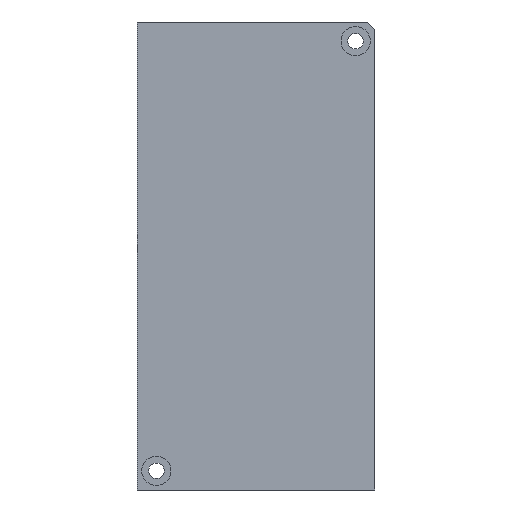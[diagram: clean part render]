
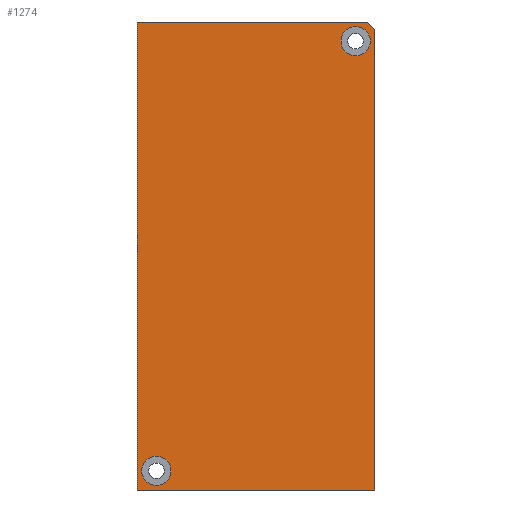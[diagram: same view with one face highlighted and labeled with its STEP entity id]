
A CAD part, front view. The second image highlights one B-rep face of the part: STEP entity #1274.
In plain terms, the highlighted planar face has unit normal (0, -1, 0).
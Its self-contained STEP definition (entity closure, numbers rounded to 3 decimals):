
#28=FACE_BOUND('',#237,.T.);
#29=FACE_BOUND('',#238,.T.);
#81=PLANE('',#1405);
#152=FACE_OUTER_BOUND('',#236,.T.);
#236=EDGE_LOOP('',(#1178,#1179,#1180,#1181,#1182));
#237=EDGE_LOOP('',(#1183));
#238=EDGE_LOOP('',(#1184));
#363=LINE('',#2105,#497);
#366=LINE('',#2112,#500);
#368=LINE('',#2115,#502);
#371=LINE('',#2122,#505);
#372=LINE('',#2124,#506);
#497=VECTOR('',#1738,10.);
#500=VECTOR('',#1745,10.);
#502=VECTOR('',#1749,10.);
#505=VECTOR('',#1758,10.);
#506=VECTOR('',#1761,10.);
#530=CIRCLE('',#1342,1.6);
#533=CIRCLE('',#1347,1.6);
#597=VERTEX_POINT('',#1904);
#600=VERTEX_POINT('',#1913);
#658=VERTEX_POINT('',#2102);
#659=VERTEX_POINT('',#2104);
#660=VERTEX_POINT('',#2109);
#661=VERTEX_POINT('',#2111);
#662=VERTEX_POINT('',#2120);
#728=EDGE_CURVE('',#597,#597,#530,.T.);
#732=EDGE_CURVE('',#600,#600,#533,.T.);
#827=EDGE_CURVE('',#658,#659,#363,.T.);
#830=EDGE_CURVE('',#660,#661,#366,.T.);
#832=EDGE_CURVE('',#659,#660,#368,.T.);
#835=EDGE_CURVE('',#662,#658,#371,.T.);
#836=EDGE_CURVE('',#661,#662,#372,.T.);
#1178=ORIENTED_EDGE('',*,*,#830,.F.);
#1179=ORIENTED_EDGE('',*,*,#832,.F.);
#1180=ORIENTED_EDGE('',*,*,#827,.F.);
#1181=ORIENTED_EDGE('',*,*,#835,.F.);
#1182=ORIENTED_EDGE('',*,*,#836,.F.);
#1183=ORIENTED_EDGE('',*,*,#728,.T.);
#1184=ORIENTED_EDGE('',*,*,#732,.T.);
#1274=ADVANCED_FACE('',(#152,#28,#29),#81,.T.);
#1342=AXIS2_PLACEMENT_3D('',#1905,#1544,#1545);
#1347=AXIS2_PLACEMENT_3D('',#1914,#1555,#1556);
#1405=AXIS2_PLACEMENT_3D('',#2125,#1762,#1763);
#1544=DIRECTION('center_axis',(0.,1.,0.));
#1545=DIRECTION('ref_axis',(-1.,0.,0.));
#1555=DIRECTION('center_axis',(0.,1.,0.));
#1556=DIRECTION('ref_axis',(-1.,0.,0.));
#1738=DIRECTION('',(0.,0.,1.));
#1745=DIRECTION('',(0.707,0.,-0.707));
#1749=DIRECTION('',(1.,0.,0.));
#1758=DIRECTION('',(-1.,0.,0.));
#1761=DIRECTION('',(0.,0.,-1.));
#1762=DIRECTION('center_axis',(0.,-1.,0.));
#1763=DIRECTION('ref_axis',(0.,0.,-1.));
#1904=CARTESIAN_POINT('',(12.375,0.,36.326));
#1905=CARTESIAN_POINT('Origin',(10.775,0.,36.326));
#1913=CARTESIAN_POINT('',(-9.425,0.,-10.674));
#1914=CARTESIAN_POINT('Origin',(-11.025,0.,-10.674));
#2102=CARTESIAN_POINT('',(-13.125,0.,-12.774));
#2104=CARTESIAN_POINT('',(-13.125,0.,38.426));
#2105=CARTESIAN_POINT('',(-13.125,0.,-12.774));
#2109=CARTESIAN_POINT('',(12.075,0.,38.426));
#2111=CARTESIAN_POINT('',(12.875,0.,37.626));
#2112=CARTESIAN_POINT('',(15.625,0.,34.876));
#2115=CARTESIAN_POINT('',(-13.125,0.,38.426));
#2120=CARTESIAN_POINT('',(12.875,0.,-12.774));
#2122=CARTESIAN_POINT('',(12.875,0.,-12.774));
#2124=CARTESIAN_POINT('',(12.875,0.,38.426));
#2125=CARTESIAN_POINT('Origin',(-0.125,0.,12.826));
